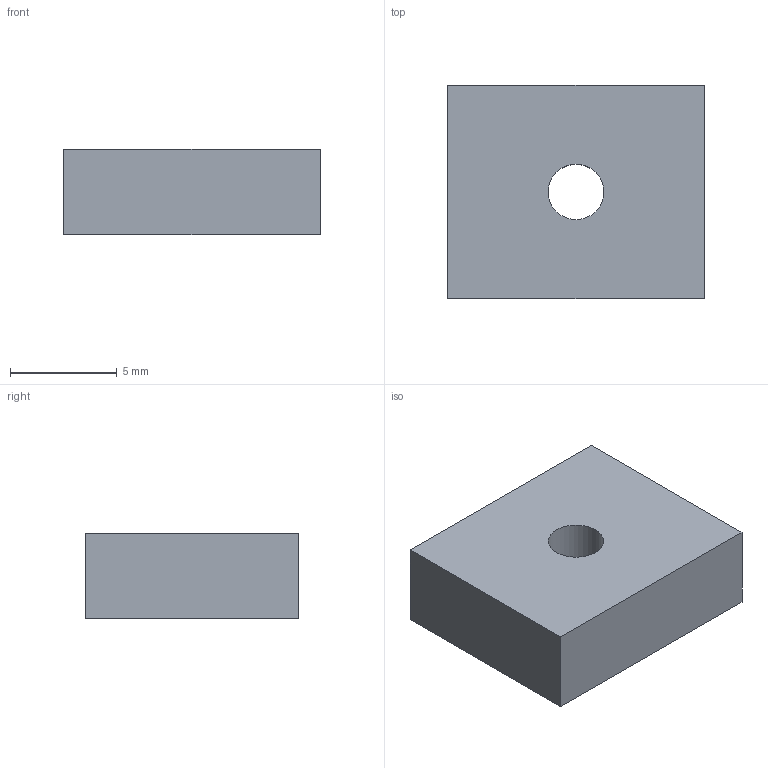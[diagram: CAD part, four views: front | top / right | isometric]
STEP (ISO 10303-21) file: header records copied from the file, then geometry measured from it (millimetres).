
FILE_DESCRIPTION(('Open CASCADE Model'),'2;1');
FILE_NAME('Open CASCADE Shape Model','2000-01-01T00:00:00',('Author'),( 'Open CASCADE'),'Open CASCADE STEP processor 7.9','Open CASCADE 7.9' ,'Unknown');
FILE_SCHEMA(('AUTOMOTIVE_DESIGN { 1 0 10303 214 1 1 1 1 }'));
Length unit declared in the file: millimetre
Products named in the file (1): Open CASCADE STEP translator 7.9 1
Bounding box: 12 x 10 x 4 mm (x, y, z)
Volume: 458.8 mm3; surface area: 438.1 mm2
Topology: 1 solids, 1 shells, 7 faces, 15 edges, 10 vertices
Faces by surface type: plane 6, cylinder 1
Full cylindrical faces by diameter (mm): 2.6 x1
Entity records: 400 total; most frequent: CARTESIAN_POINT 63, DIRECTION 63, LINE 41, VECTOR 41, ORIENTED_EDGE 30, PCURVE 30, DEFINITIONAL_REPRESENTATION 30, EDGE_CURVE 15
